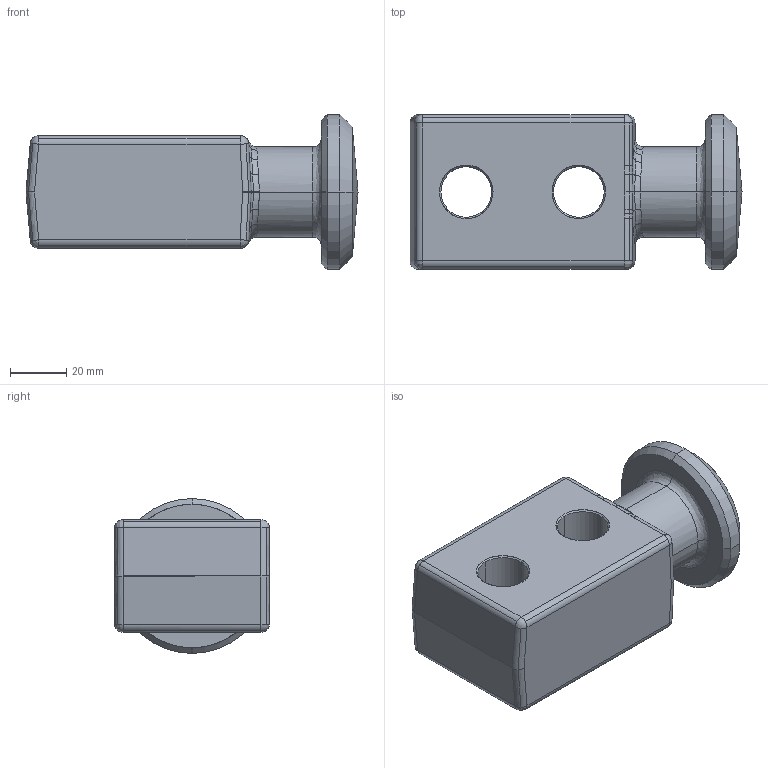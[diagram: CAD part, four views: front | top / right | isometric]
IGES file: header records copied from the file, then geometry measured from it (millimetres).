
Global section: file name: E:\UnigraphicsGraphicData\MISUMI_PRESS-PARTS\IGES\3d_chp32_03553_r00.igs; native system: NX V5.0; preprocessor: UGS NX IGES V5.0; author: MISUMI; date: 20110105.160225; units: millimetre
Bounding box: 118 x 55 x 55 mm (x, y, z)
Surface area: 28461.4 mm2 (no closed solid volume)
Topology: 0 solids, 0 shells, 167 faces, 839 edges, 825 vertices
Faces by surface type: bspline 167
